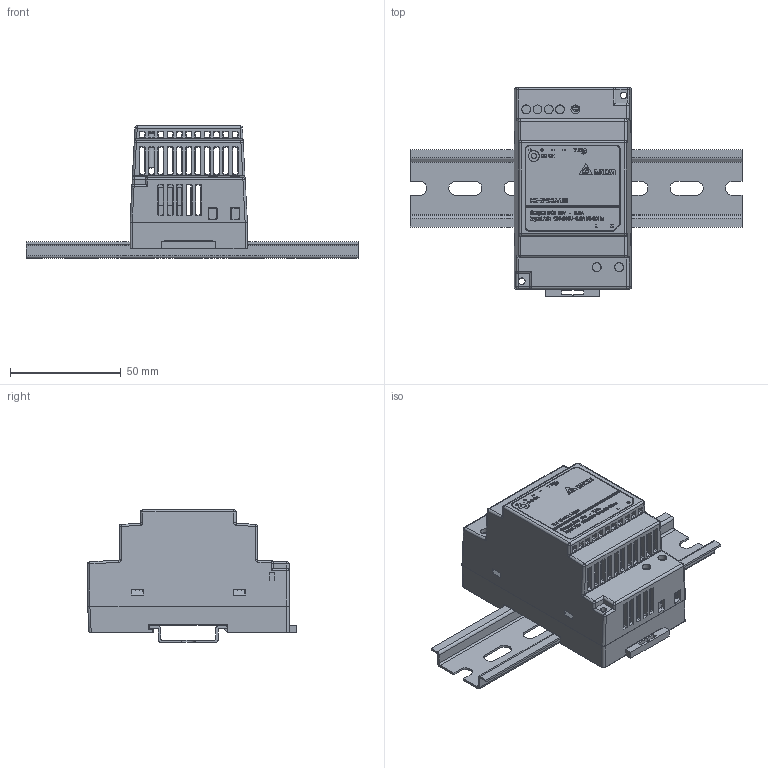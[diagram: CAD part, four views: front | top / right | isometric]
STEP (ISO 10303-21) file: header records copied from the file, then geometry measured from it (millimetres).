
FILE_DESCRIPTION((''),'2;1');
FILE_NAME('30W_ASM','2013-08-21T',('ERIC.YP.CHEN'),(''),'PRO/ENGINEER BY PARAMETRIC TECHNOLOGY CORPORATION, 2010280','PRO/ENGINEER BY PARAMETRIC TECHNOLOGY CORPORATION, 2010280','');
FILE_SCHEMA(('CONFIG_CONTROL_DESIGN'));
Products named in the file (12): 330DT78400; 330DT78500; PWB; HSK1; TERMINAL-2P; TERMINAL2-4P; LENS; 3421026502; RAIL; LOGO; EE_VR350; 30W_ASM
Assembly tree (11 placements, depth 2):
  30W_ASM
    330DT78400
    330DT78500
    PWB
    HSK1
    TERMINAL-2P
    TERMINAL2-4P
    LENS
    3421026502
    RAIL
    LOGO
    EE_VR350
Bounding box: 150 x 94.3 x 60 mm (x, y, z)
Volume: 60729.7 mm3; surface area: 78819.1 mm2
Topology: 11 solids, 11 shells, 2381 faces, 6451 edges, 4221 vertices
Faces by surface type: plane 1317, cylinder 512, extrusion 444, sphere 44, cone 30, bspline 26, torus 8
Entity records: 81423 total; most frequent: CARTESIAN_POINT 23728, ORIENTED_EDGE 12898, DIRECTION 9651, EDGE_CURVE 6449, VECTOR 4851, LINE 4407, VERTEX_POINT 4221, EDGE_LOOP 2684
